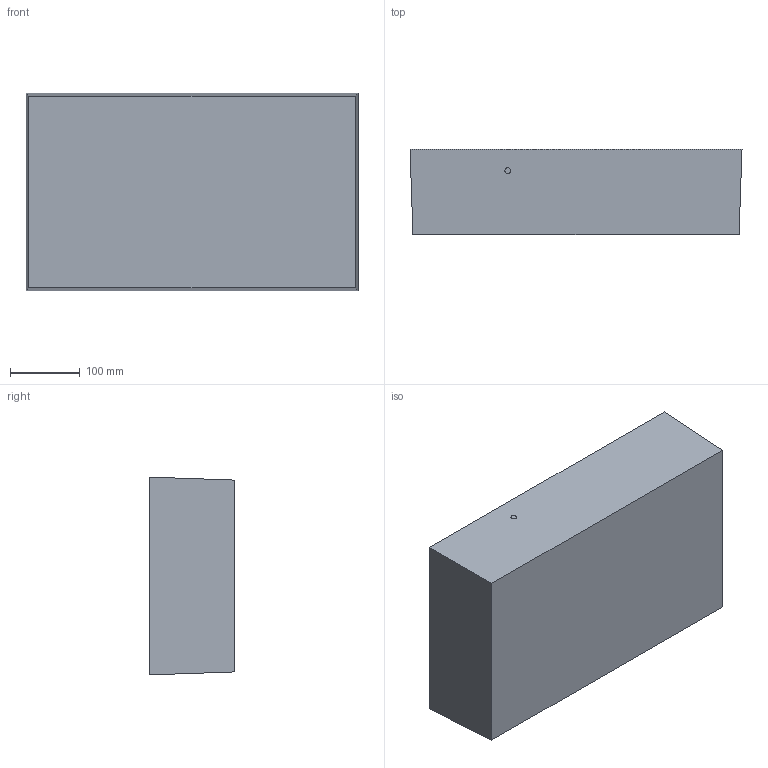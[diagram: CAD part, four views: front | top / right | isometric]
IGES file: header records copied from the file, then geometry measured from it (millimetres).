
Start section: SolidWorks IGES file using analytic representation for surfaces
Global section: file name: E:\Air Cases step files\OEM parts for 1485\1485 bottom Tub.IGS; native system: SolidWorks 2016; preprocessor: SolidWorks 2016; author: mhakami; date: 160419.133655; units: inch
Bounding box: 475.64 x 121.92 x 283.37 mm (x, y, z)
Surface area: 586986.8 mm2 (no closed solid volume)
Topology: 0 solids, 0 shells, 404 faces, 4433 edges, 4412 vertices
Faces by surface type: bspline 263, revolution 141
